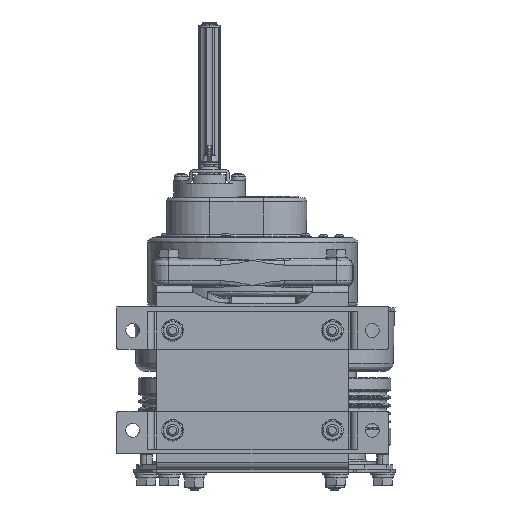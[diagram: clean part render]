
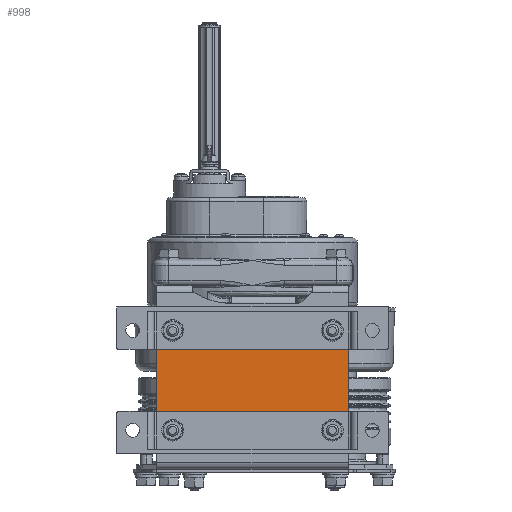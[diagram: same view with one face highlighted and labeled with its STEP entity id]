
A CAD part, front view. The second image highlights one B-rep face of the part: STEP entity #998.
In plain terms, the highlighted planar face has unit normal (0, -1, 0).
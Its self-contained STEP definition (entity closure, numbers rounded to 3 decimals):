
#998=ADVANCED_FACE('',(#10380),#10379,.T.);
#10379=PLANE('',#34724);
#10380=FACE_OUTER_BOUND('',#34725,.T.);
#34721=CARTESIAN_POINT('',(1448.16,-105.5,-280.044));
#34722=DIRECTION('',(0.,-1.,0.));
#34723=DIRECTION('',(0.,0.,1.));
#34724=AXIS2_PLACEMENT_3D('',#34721,#34722,#34723);
#34725=EDGE_LOOP('',(#52104,#52105,#52106,#52107));
#52104=ORIENTED_EDGE('',*,*,#62459,.F.);
#52105=ORIENTED_EDGE('',*,*,#62917,.T.);
#52106=ORIENTED_EDGE('',*,*,#64015,.T.);
#52107=ORIENTED_EDGE('',*,*,#62925,.F.);
#62459=EDGE_CURVE('',#75340,#75347,#75348,.T.);
#62917=EDGE_CURVE('',#75340,#75893,#78438,.T.);
#62925=EDGE_CURVE('',#75347,#78491,#78492,.T.);
#64015=EDGE_CURVE('',#75893,#78491,#85796,.T.);
#75340=VERTEX_POINT('',#117320);
#75347=VERTEX_POINT('',#117324);
#75348=LINE('',#117325,#117326);
#75893=VERTEX_POINT('',#117659);
#78438=LINE('',#119370,#119371);
#78491=VERTEX_POINT('',#119401);
#78492=LINE('',#119402,#119403);
#85796=LINE('',#124621,#124622);
#117320=CARTESIAN_POINT('',(1438.16,-105.5,-273.844));
#117324=CARTESIAN_POINT('',(1246.16,-105.5,-273.844));
#117325=CARTESIAN_POINT('',(1438.16,-105.5,-273.844));
#117326=VECTOR('',#117327,192.);
#117327=DIRECTION('',(-1.,0.,0.));
#117659=CARTESIAN_POINT('',(1438.16,-105.5,-211.844));
#119370=CARTESIAN_POINT('',(1438.16,-105.5,-273.844));
#119371=VECTOR('',#119372,62.);
#119372=DIRECTION('',(0.,0.,1.));
#119401=CARTESIAN_POINT('',(1246.16,-105.5,-211.844));
#119402=CARTESIAN_POINT('',(1246.16,-105.5,-273.844));
#119403=VECTOR('',#119404,62.);
#119404=DIRECTION('',(0.,0.,1.));
#124621=CARTESIAN_POINT('',(1438.16,-105.5,-211.844));
#124622=VECTOR('',#124623,192.);
#124623=DIRECTION('',(-1.,0.,0.));
